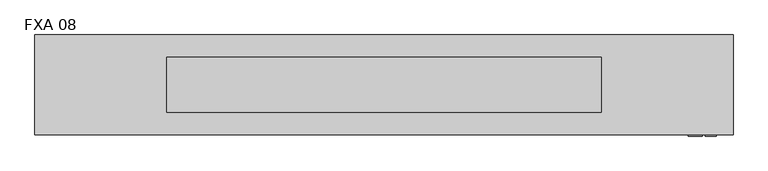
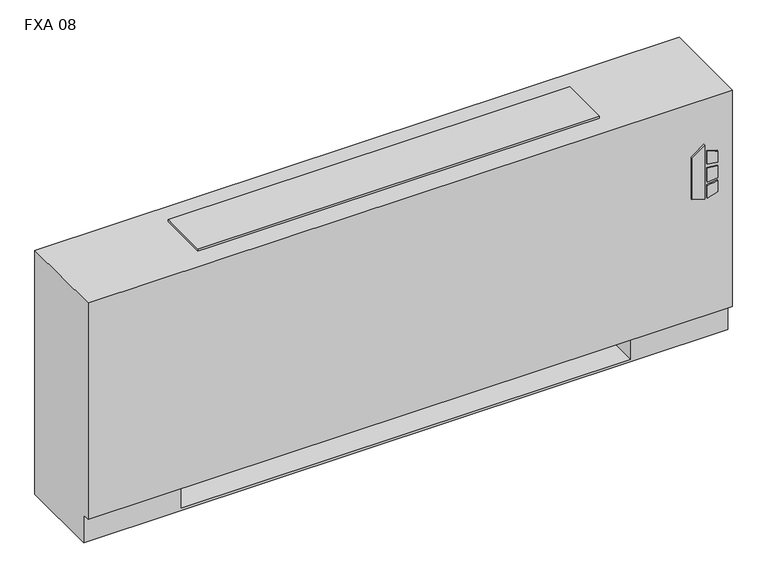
"""IFC4 building model written with IfcOpenShell, lengths in millimetres: proxy geometry, Vertical_Fan_Coil_Unit_-_FXA_-_IEC_-_2-Pipe_TS-FR_RH_2022 : FXA 08."""

from ifc_helpers import new_model, si_unit, point, frame, frame_2d, origin, place, context, project, spatial, polyline, circle_curve, trimmed, segment, composite_curve, outline, extrude, source, transform, mapped, element, save
from ifc_brep_helpers import plane_surface, revolved_surface, advanced_brep


def fxa_08_aa406573(model_context):
    return source(origin(), model_context, "Body", "SolidModel", [
        extrude(outline(polyline([(391.6086829, 849.3868862), (381.6606126, 881.5602728), (523.831537, 881.5602728), (500.8095309, 849.3868862), (391.6086829, 849.3868862)])), frame((0.0, 12.7, 0.0), z_axis=(0.0, 1.0, 0.0), x_axis=(0.0, 0.0, 1.0)), (0.0, 0.0, 1.0), 3.175),
        extrude(outline(polyline([(470.6079683, 888.3186058), (467.4055757, 914.4), (496.6344168, 914.4), (504.6988318, 888.3186058), (470.6079683, 888.3186058)])), frame((0.0, 12.7, 0.0), z_axis=(0.0, 1.0, 0.0), x_axis=(0.0, 0.0, 1.0)), (0.0, 0.0, 1.0), 3.175),
        extrude(outline(polyline([(418.7444414, 914.4), (415.0789404, 888.3186058), (381.6606126, 888.3186058), (390.2948498, 914.4), (418.7444414, 914.4)])), frame((0.0, 12.7, 0.0), z_axis=(0.0, 1.0, 0.0), x_axis=(0.0, 0.0, 1.0)), (0.0, 0.0, 1.0), 3.175),
        extrude(outline(polyline([(458.0596028, 914.4), (460.3414292, 888.3186058), (424.4038806, 888.3186058), (427.1451456, 914.4), (458.0596028, 914.4)])), frame((0.0, 12.7, 0.0), z_axis=(0.0, 1.0, 0.0), x_axis=(0.0, 0.0, 1.0)), (0.0, 0.0, 1.0), 3.175),
        extrude(outline(polyline([(-527.05, 81.534), (-527.05, 223.266), (-406.4, 223.266), (-406.4, 81.534), (-527.05, 81.534)])), frame((0.0, 0.0, 327.025), z_axis=(0.0, 0.0, 1.0), x_axis=(1.0, 0.0, 0.0)), (0.0, 0.0, 1.0), 260.35),
        extrude(outline(composite_curve([segment(trimmed(circle_curve(frame_2d((774.7, 130.175)), 9.525), [point((765.175, 130.175))], [point((784.225, 130.175))], False, "CARTESIAN"), True, "CONTINUOUS"), segment(trimmed(circle_curve(frame_2d((774.7, 130.175)), 9.525), [point((784.225, 130.175))], [point((765.175, 130.175))], False, "CARTESIAN"), True, "CONTINUOUS")], self_intersect=False)), frame((0.0, 0.0, 101.6), z_axis=(0.0, 0.0, 1.0), x_axis=(1.0, 0.0, 0.0)), (0.0, 0.0, 1.0), 25.4),
        extrude(outline(polyline([(869.95, 196.85), (869.95, 63.5), (711.2, 63.5), (711.2, 196.85), (869.95, 196.85)])), frame((0.0, 0.0, 127.0), z_axis=(0.0, 0.0, 1.0), x_axis=(1.0, 0.0, 0.0)), (0.0, 0.0, 1.0), 50.8),
        extrude(outline(composite_curve([segment(trimmed(circle_curve(frame_2d((93.1926, 485.5972)), 7.9375), [point((93.1926, 493.5347))], [point((93.1926, 477.6597))], False, "CARTESIAN"), True, "CONTINUOUS"), segment(trimmed(circle_curve(frame_2d((93.1926, 485.5972)), 7.9375), [point((93.1926, 477.6597))], [point((93.1926, 493.5347))], False, "CARTESIAN"), True, "CONTINUOUS")], self_intersect=False)), frame((711.2, 0.0, 0.0), z_axis=(1.0, 0.0, 0.0), x_axis=(0.0, 1.0, 0.0)), (0.0, 0.0, 1.0), 50.8),
        extrude(outline(composite_curve([segment(trimmed(circle_curve(frame_2d((141.3002, 458.9526)), 7.9375), [point((141.3002, 466.8901))], [point((141.3002, 451.0151))], False, "CARTESIAN"), True, "CONTINUOUS"), segment(trimmed(circle_curve(frame_2d((141.3002, 458.9526)), 7.9375), [point((141.3002, 451.0151))], [point((141.3002, 466.8901))], False, "CARTESIAN"), True, "CONTINUOUS")], self_intersect=False)), frame((711.2, 0.0, 0.0), z_axis=(1.0, 0.0, 0.0), x_axis=(0.0, 1.0, 0.0)), (0.0, 0.0, 1.0), 50.8),
        advanced_brep(
        [(952.5, 244.475, 641.35), (-647.7, 244.475, 641.35), (-647.7, 15.875, 641.35), (952.5, 15.875, 641.35), (-647.7, 244.475, 0.0), (952.5, 244.475, 0.0), (952.5, 34.925, 0.0), (-647.7, 34.925, 0.0), (711.2, 244.475, 73.025), (939.8, 244.475, 73.025), (939.8, 244.475, 628.65), (711.2, 244.475, 628.65), (711.2, 244.475, 414.8650565), (739.775, 244.475, 414.8650565), (739.775, 244.475, 385.2349435), (711.2, 244.475, 385.2349435), (711.2, 244.475, 287.3375), (739.775, 244.475, 287.3375), (739.775, 244.475, 258.7625), (711.2, 244.475, 258.7625), (711.2, 244.475, 141.2875), (739.775, 244.475, 141.2875), (739.775, 244.475, 112.7125), (711.2, 244.475, 112.7125), (-406.4, 244.475, 628.65), (-635.0, 244.475, 628.65), (-635.0, 244.475, 73.025), (-406.4, 244.475, 73.025), (-406.4, 244.475, 112.7125), (-434.975, 244.475, 112.7125), (-434.975, 244.475, 141.2875), (-406.4, 244.475, 141.2875), (-406.4, 244.475, 258.7625), (-434.975, 244.475, 258.7625), (-434.975, 244.475, 287.3375), (-406.4, 244.475, 287.3375), (-406.4, 244.475, 385.2349435), (-434.975, 244.475, 385.2349435), (-434.975, 244.475, 414.8650565), (-406.4, 244.475, 414.8650565), (729.4626, 244.475, 127.0), (718.3374, 244.475, 127.0), (729.4626, 244.475, 400.05), (718.3374, 244.475, 400.05), (729.4626, 244.475, 273.05), (718.3374, 244.475, 273.05), (-413.5374, 244.475, 127.0), (-424.6626, 244.475, 127.0), (-413.5374, 244.475, 273.05), (-424.6626, 244.475, 273.05), (-413.5374, 244.475, 400.05), (-424.6626, 244.475, 400.05), (-647.7, 34.925, 73.025), (-647.7, 15.875, 73.025), (952.5, 15.875, 73.025), (952.5, 34.925, 73.025), (-406.4, 34.925, 73.025), (-406.4, 219.075, 73.025), (711.2, 219.075, 73.025), (711.2, 34.925, 73.025), (711.2, 34.925, 6.35), (-406.4, 34.925, 6.35), (711.2, 41.275, 628.65), (939.8, 41.275, 628.65), (939.8, 41.275, 73.025), (711.2, 41.275, 73.025), (-406.4, 41.275, 628.65), (-406.4, 41.275, 73.025), (-635.0, 41.275, 73.025), (-635.0, 41.275, 628.65), (711.2, 219.075, 73.025), (711.2, 238.125, 112.7125), (711.2, 238.125, 141.2875), (711.2, 238.125, 258.7625), (711.2, 238.125, 287.3375), (711.2, 238.125, 385.2349435), (711.2, 238.125, 414.8650565), (-406.4, 219.075, 73.025), (-406.4, 238.125, 414.8650565), (-406.4, 238.125, 385.2349435), (-406.4, 238.125, 287.3375), (-406.4, 238.125, 258.7625), (-406.4, 238.125, 141.2875), (-406.4, 238.125, 112.7125), (-406.4, 219.075, 6.35), (711.2, 219.075, 6.35), (739.775, 238.125, 112.7125), (739.775, 238.125, 141.2875), (718.3374, 238.125, 127.0), (729.4626, 238.125, 127.0), (739.775, 238.125, 258.7625), (739.775, 238.125, 287.3375), (718.3374, 238.125, 273.05), (729.4626, 238.125, 273.05), (739.775, 238.125, 385.2349435), (739.775, 238.125, 414.8650565), (718.3374, 238.125, 400.05), (729.4626, 238.125, 400.05), (-434.975, 238.125, 141.2875), (-434.975, 238.125, 112.7125), (-424.6626, 238.125, 127.0), (-413.5374, 238.125, 127.0), (-434.975, 238.125, 287.3375), (-434.975, 238.125, 258.7625), (-424.6626, 238.125, 273.05), (-413.5374, 238.125, 273.05), (-434.975, 238.125, 414.8650565), (-434.975, 238.125, 385.2349435), (-424.6626, 238.125, 400.05), (-413.5374, 238.125, 400.05)],
        [
            (0, 1),
            (1, 2),
            (2, 3),
            (3, 0),
            (4, 5),
            (5, 6),
            (6, 7),
            (7, 4),
            (0, 5),
            (4, 1),
            (8, 9),
            (9, 10),
            (10, 11),
            (11, 12),
            (12, 13),
            (13, 14),
            (14, 15),
            (15, 16),
            (16, 17),
            (17, 18),
            (18, 19),
            (19, 20),
            (20, 21),
            (21, 22),
            (22, 23),
            (23, 8),
            (24, 25),
            (25, 26),
            (26, 27),
            (27, 28),
            (28, 29),
            (29, 30),
            (30, 31),
            (31, 32),
            (32, 33),
            (33, 34),
            (34, 35),
            (35, 36),
            (36, 37),
            (37, 38),
            (38, 39),
            (39, 24),
            (40, 41, circle_curve(frame((723.9, 244.475, 127.0), z_axis=(0.0, -1.0, 0.0), x_axis=(-1.0, 0.0, 0.0)), 5.5626)),
            (41, 40, circle_curve(frame((723.9, 244.475, 127.0), z_axis=(0.0, -1.0, 0.0), x_axis=(-1.0, 0.0, 0.0)), 5.5626)),
            (42, 43, circle_curve(frame((723.9, 244.475, 400.05), z_axis=(0.0, -1.0, 0.0), x_axis=(-1.0, 0.0, 0.0)), 5.5626)),
            (43, 42, circle_curve(frame((723.9, 244.475, 400.05), z_axis=(0.0, -1.0, 0.0), x_axis=(-1.0, 0.0, 0.0)), 5.5626)),
            (44, 45, circle_curve(frame((723.9, 244.475, 273.05), z_axis=(0.0, -1.0, 0.0), x_axis=(-1.0, 0.0, 0.0)), 5.5626)),
            (45, 44, circle_curve(frame((723.9, 244.475, 273.05), z_axis=(0.0, -1.0, 0.0), x_axis=(-1.0, 0.0, 0.0)), 5.5626)),
            (46, 47, circle_curve(frame((-419.1, 244.475, 127.0), z_axis=(0.0, -1.0, 0.0), x_axis=(-1.0, 0.0, 0.0)), 5.5626)),
            (47, 46, circle_curve(frame((-419.1, 244.475, 127.0), z_axis=(0.0, -1.0, 0.0), x_axis=(-1.0, 0.0, 0.0)), 5.5626)),
            (48, 49, circle_curve(frame((-419.1, 244.475, 273.05), z_axis=(0.0, -1.0, 0.0), x_axis=(-1.0, 0.0, 0.0)), 5.5626)),
            (49, 48, circle_curve(frame((-419.1, 244.475, 273.05), z_axis=(0.0, -1.0, 0.0), x_axis=(-1.0, 0.0, 0.0)), 5.5626)),
            (50, 51, circle_curve(frame((-419.1, 244.475, 400.05), z_axis=(0.0, -1.0, 0.0), x_axis=(-1.0, 0.0, 0.0)), 5.5626)),
            (51, 50, circle_curve(frame((-419.1, 244.475, 400.05), z_axis=(0.0, -1.0, 0.0), x_axis=(-1.0, 0.0, 0.0)), 5.5626)),
            (7, 52),
            (52, 53),
            (53, 2),
            (53, 54),
            (54, 3),
            (54, 55),
            (55, 6),
            (52, 56),
            (56, 57),
            (57, 58),
            (58, 59),
            (59, 55),
            (59, 60),
            (60, 61),
            (61, 56),
            (62, 63),
            (63, 64),
            (64, 65),
            (65, 62),
            (66, 67),
            (67, 68),
            (68, 69),
            (69, 66),
            (65, 70),
            (70, 8),
            (23, 71),
            (71, 72),
            (72, 20),
            (19, 73),
            (73, 74),
            (74, 16),
            (15, 75),
            (75, 76),
            (76, 12),
            (11, 62),
            (64, 9),
            (63, 10),
            (69, 25),
            (24, 66),
            (68, 26),
            (67, 77),
            (77, 27),
            (39, 78),
            (78, 79),
            (79, 36),
            (35, 80),
            (80, 81),
            (81, 32),
            (31, 82),
            (82, 83),
            (83, 28),
            (57, 84),
            (84, 85),
            (85, 58),
            (85, 60),
            (84, 61),
            (71, 86),
            (86, 87),
            (87, 72),
            (88, 89, circle_curve(frame((723.9, 238.125, 127.0), z_axis=(0.0, 1.0, 0.0), x_axis=(-1.0, 0.0, 0.0)), 5.5626)),
            (89, 88, circle_curve(frame((723.9, 238.125, 127.0), z_axis=(0.0, 1.0, 0.0), x_axis=(-1.0, 0.0, 0.0)), 5.5626)),
            (73, 90),
            (90, 91),
            (91, 74),
            (92, 93, circle_curve(frame((723.9, 238.125, 273.05), z_axis=(0.0, 1.0, 0.0), x_axis=(-1.0, 0.0, 0.0)), 5.5626)),
            (93, 92, circle_curve(frame((723.9, 238.125, 273.05), z_axis=(0.0, 1.0, 0.0), x_axis=(-1.0, 0.0, 0.0)), 5.5626)),
            (75, 94),
            (94, 95),
            (95, 76),
            (96, 97, circle_curve(frame((723.9, 238.125, 400.05), z_axis=(0.0, 1.0, 0.0), x_axis=(-1.0, 0.0, 0.0)), 5.5626)),
            (97, 96, circle_curve(frame((723.9, 238.125, 400.05), z_axis=(0.0, 1.0, 0.0), x_axis=(-1.0, 0.0, 0.0)), 5.5626)),
            (98, 99),
            (99, 83),
            (82, 98),
            (100, 101, circle_curve(frame((-419.1, 238.125, 127.0), z_axis=(0.0, 1.0, 0.0), x_axis=(-1.0, 0.0, 0.0)), 5.5626)),
            (101, 100, circle_curve(frame((-419.1, 238.125, 127.0), z_axis=(0.0, 1.0, 0.0), x_axis=(-1.0, 0.0, 0.0)), 5.5626)),
            (102, 103),
            (103, 81),
            (80, 102),
            (104, 105, circle_curve(frame((-419.1, 238.125, 273.05), z_axis=(0.0, 1.0, 0.0), x_axis=(-1.0, 0.0, 0.0)), 5.5626)),
            (105, 104, circle_curve(frame((-419.1, 238.125, 273.05), z_axis=(0.0, 1.0, 0.0), x_axis=(-1.0, 0.0, 0.0)), 5.5626)),
            (106, 107),
            (107, 79),
            (78, 106),
            (108, 109, circle_curve(frame((-419.1, 238.125, 400.05), z_axis=(0.0, 1.0, 0.0), x_axis=(-1.0, 0.0, 0.0)), 5.5626)),
            (109, 108, circle_curve(frame((-419.1, 238.125, 400.05), z_axis=(0.0, 1.0, 0.0), x_axis=(-1.0, 0.0, 0.0)), 5.5626)),
            (87, 21),
            (86, 22),
            (91, 17),
            (90, 18),
            (95, 13),
            (94, 14),
            (30, 98),
            (99, 29),
            (34, 102),
            (103, 33),
            (38, 106),
            (107, 37),
            (88, 41),
            (40, 89),
            (96, 43),
            (42, 97),
            (92, 45),
            (44, 93),
            (100, 47),
            (46, 101),
            (104, 49),
            (48, 105),
            (108, 51),
            (50, 109),
        ],
        [
            plane_surface(frame((-647.7, 244.475, 641.35), z_axis=(0.0, 0.0, 1.0), x_axis=(-1.0, 0.0, 0.0))),
            plane_surface(frame((-647.7, 244.475, 0.0), z_axis=(0.0, 0.0, -1.0), x_axis=(1.0, 0.0, 0.0))),
            plane_surface(frame((952.5, 244.475, 641.35), z_axis=(0.0, 1.0, 0.0), x_axis=(0.0, 0.0, -1.0))),
            plane_surface(frame((-647.7, 244.475, 641.35), z_axis=(-1.0, 0.0, 0.0), x_axis=(0.0, 0.0, -1.0))),
            plane_surface(frame((-647.7, 15.875, 641.35), z_axis=(0.0, -1.0, 0.0), x_axis=(0.0, 0.0, -1.0))),
            plane_surface(frame((952.5, 15.875, 641.35), z_axis=(1.0, 0.0, 0.0), x_axis=(0.0, 0.0, -1.0))),
            plane_surface(frame((-647.7, 15.875, 73.025), z_axis=(0.0, 0.0, -1.0), x_axis=(1.0, 0.0, 0.0))),
            plane_surface(frame((-647.7, 34.925, 73.025), z_axis=(0.0, -1.0, 0.0), x_axis=(1.0, 0.0, 0.0))),
            plane_surface(frame((711.2, 41.275, 628.65), z_axis=(0.0, 1.0, 0.0), x_axis=(0.0, 0.0, -1.0))),
            plane_surface(frame((711.2, 41.275, 628.65), z_axis=(1.0, 0.0, 0.0), x_axis=(0.0, 1.0, 0.0))),
            plane_surface(frame((711.2, 41.275, 73.025), z_axis=(0.0, 0.0, 1.0), x_axis=(0.0, 1.0, 0.0))),
            plane_surface(frame((939.8, 41.275, 73.025), z_axis=(-1.0, 0.0, 0.0), x_axis=(0.0, 1.0, 0.0))),
            plane_surface(frame((939.8, 41.275, 628.65), z_axis=(0.0, 0.0, -1.0), x_axis=(0.0, 1.0, 0.0))),
            plane_surface(frame((-406.4, 41.275, 628.65), z_axis=(0.0, 0.0, -1.0), x_axis=(0.0, 1.0, 0.0))),
            plane_surface(frame((-635.0, 41.275, 628.65), z_axis=(1.0, 0.0, 0.0), x_axis=(0.0, 1.0, 0.0))),
            plane_surface(frame((-635.0, 41.275, 73.025), z_axis=(0.0, 0.0, 1.0), x_axis=(0.0, 1.0, 0.0))),
            plane_surface(frame((-406.4, 41.275, 73.025), z_axis=(-1.0, 0.0, 0.0), x_axis=(0.0, 1.0, 0.0))),
            plane_surface(frame((711.2, 219.075, 73.025), z_axis=(0.0, -1.0, 0.0), x_axis=(0.0, 0.0, -1.0))),
            plane_surface(frame((711.2, 219.075, 73.025), z_axis=(-1.0, 0.0, 0.0), x_axis=(0.0, -1.0, 0.0))),
            plane_surface(frame((711.2, 219.075, 6.35), z_axis=(0.0, 0.0, 1.0), x_axis=(0.0, -1.0, 0.0))),
            plane_surface(frame((-406.4, 219.075, 6.35), z_axis=(1.0, 0.0, 0.0), x_axis=(0.0, -1.0, 0.0))),
            plane_surface(frame((739.775, 238.125, 141.2875), z_axis=(0.0, -1.0, 0.0), x_axis=(-1.0, 0.0, 0.0))),
            plane_surface(frame((711.2, 244.475, 141.2875), z_axis=(0.0, 0.0, 1.0), x_axis=(0.0, -1.0, 0.0))),
            plane_surface(frame((739.775, 244.475, 141.2875), z_axis=(1.0, 0.0, 0.0), x_axis=(0.0, -1.0, 0.0))),
            plane_surface(frame((739.775, 244.475, 112.7125), z_axis=(0.0, 0.0, -1.0), x_axis=(0.0, -1.0, 0.0))),
            plane_surface(frame((711.2, 244.475, 287.3375), z_axis=(0.0, 0.0, 1.0), x_axis=(0.0, -1.0, 0.0))),
            plane_surface(frame((739.775, 244.475, 287.3375), z_axis=(1.0, 0.0, 0.0), x_axis=(0.0, -1.0, 0.0))),
            plane_surface(frame((739.775, 244.475, 258.7625), z_axis=(0.0, 0.0, -1.0), x_axis=(0.0, -1.0, 0.0))),
            plane_surface(frame((711.2, 244.475, 414.8650565), z_axis=(0.0, 0.0, 1.0), x_axis=(0.0, -1.0, 0.0))),
            plane_surface(frame((739.775, 244.475, 414.8650565), z_axis=(1.0, 0.0, 0.0), x_axis=(0.0, -1.0, 0.0))),
            plane_surface(frame((739.775, 244.475, 385.2349435), z_axis=(0.0, 0.0, -1.0), x_axis=(0.0, -1.0, 0.0))),
            plane_surface(frame((-434.975, 244.475, 141.2875), z_axis=(0.0, 0.0, 1.0), x_axis=(0.0, -1.0, 0.0))),
            plane_surface(frame((-406.4, 244.475, 112.7125), z_axis=(0.0, 0.0, -1.0), x_axis=(0.0, -1.0, 0.0))),
            plane_surface(frame((-434.975, 244.475, 112.7125), z_axis=(-1.0, 0.0, 0.0), x_axis=(0.0, -1.0, 0.0))),
            plane_surface(frame((-434.975, 244.475, 287.3375), z_axis=(0.0, 0.0, 1.0), x_axis=(0.0, -1.0, 0.0))),
            plane_surface(frame((-406.4, 244.475, 258.7625), z_axis=(0.0, 0.0, -1.0), x_axis=(0.0, -1.0, 0.0))),
            plane_surface(frame((-434.975, 244.475, 258.7625), z_axis=(-1.0, 0.0, 0.0), x_axis=(0.0, -1.0, 0.0))),
            plane_surface(frame((-434.975, 244.475, 414.8650565), z_axis=(0.0, 0.0, 1.0), x_axis=(0.0, -1.0, 0.0))),
            plane_surface(frame((-406.4, 244.475, 385.2349435), z_axis=(0.0, 0.0, -1.0), x_axis=(0.0, -1.0, 0.0))),
            plane_surface(frame((-434.975, 244.475, 385.2349435), z_axis=(-1.0, 0.0, 0.0), x_axis=(0.0, -1.0, 0.0))),
            revolved_surface(polyline([(718.3374, 238.125, 127.0), (718.3374, 244.475, 127.0)]), (723.9, 244.475, 127.0), (0.0, -1.0, 0.0)),
            revolved_surface(polyline([(718.3374, 238.125, 400.05), (718.3374, 244.475, 400.05)]), (723.9, 244.475, 400.05), (0.0, -1.0, 0.0)),
            revolved_surface(polyline([(718.3374, 238.125, 273.05), (718.3374, 244.475, 273.05)]), (723.9, 244.475, 273.05), (0.0, -1.0, 0.0)),
            revolved_surface(polyline([(-424.6626, 238.125, 127.0), (-424.6626, 244.475, 127.0)]), (-419.1, 244.475, 127.0), (0.0, -1.0, 0.0)),
            revolved_surface(polyline([(-424.6626, 238.125, 273.05), (-424.6626, 244.475, 273.05)]), (-419.1, 244.475, 273.05), (0.0, -1.0, 0.0)),
            revolved_surface(polyline([(-424.6626, 238.125, 400.05), (-424.6626, 244.475, 400.05)]), (-419.1, 244.475, 400.05), (0.0, -1.0, 0.0)),
        ],
        [
            (0, [[1, 2, 3, 4]]),
            (1, [[5, 6, 7, 8]]),
            (2, [[-1, 9, -5, 10], [11, 12, 13, 14, 15, 16, 17, 18, 19, 20, 21, 22, 23, 24, 25, 26], [27, 28, 29, 30, 31, 32, 33, 34, 35, 36, 37, 38, 39, 40, 41, 42], [43, 44], [45, 46], [47, 48], [49, 50], [51, 52], [53, 54]]),
            (3, [[-2, -10, -8, 55, 56, 57]]),
            (4, [[-3, -57, 58, 59]]),
            (5, [[-4, -59, 60, 61, -6, -9]]),
            (6, [[-56, 62, 63, 64, 65, 66, -60, -58]]),
            (7, [[-7, -61, -66, 67, 68, 69, -62, -55]]),
            (8, [[70, 71, 72, 73]]),
            (8, [[74, 75, 76, 77]]),
            (9, [[-73, 78, 79, -26, 80, 81, 82, -22, 83, 84, 85, -18, 86, 87, 88, -14, 89]]),
            (10, [[-72, 90, -11, -79, -78]]),
            (11, [[-71, 91, -12, -90]]),
            (12, [[-70, -89, -13, -91]]),
            (13, [[-77, 92, -27, 93]]),
            (14, [[-76, 94, -28, -92]]),
            (15, [[-75, 95, 96, -29, -94]]),
            (16, [[-74, -93, -42, 97, 98, 99, -38, 100, 101, 102, -34, 103, 104, 105, -30, -96, -95]]),
            (17, [[-64, 106, 107, 108]]),
            (18, [[-108, 109, -67, -65]]),
            (19, [[-107, 110, -68, -109]]),
            (20, [[-106, -63, -69, -110]]),
            (21, [[111, 112, 113, -81], [114, 115]]),
            (21, [[116, 117, 118, -84], [119, 120]]),
            (21, [[121, 122, 123, -87], [124, 125]]),
            (21, [[126, 127, -104, 128], [129, 130]]),
            (21, [[131, 132, -101, 133], [134, 135]]),
            (21, [[136, 137, -98, 138], [139, 140]]),
            (22, [[-113, 141, -23, -82]]),
            (23, [[-112, 142, -24, -141]]),
            (24, [[-111, -80, -25, -142]]),
            (25, [[-118, 143, -19, -85]]),
            (26, [[-117, 144, -20, -143]]),
            (27, [[-116, -83, -21, -144]]),
            (28, [[-123, 145, -15, -88]]),
            (29, [[-122, 146, -16, -145]]),
            (30, [[-121, -86, -17, -146]]),
            (31, [[-128, -103, -33, 147]]),
            (32, [[-127, 148, -31, -105]]),
            (33, [[-126, -147, -32, -148]]),
            (34, [[-133, -100, -37, 149]]),
            (35, [[-132, 150, -35, -102]]),
            (36, [[-131, -149, -36, -150]]),
            (37, [[-138, -97, -41, 151]]),
            (38, [[-137, 152, -39, -99]]),
            (39, [[-136, -151, -40, -152]]),
            (40, [[153, -43, 154, -114]]),
            (40, [[-153, -115, -154, -44]]),
            (41, [[155, -45, 156, -124]]),
            (41, [[-155, -125, -156, -46]]),
            (42, [[157, -47, 158, -119]]),
            (42, [[-157, -120, -158, -48]]),
            (43, [[159, -49, 160, -129]]),
            (43, [[-159, -130, -160, -50]]),
            (44, [[161, -51, 162, -134]]),
            (44, [[-161, -135, -162, -52]]),
            (45, [[163, -53, 164, -139]]),
            (45, [[-163, -140, -164, -54]]),
        ],
    ),
        extrude(outline(polyline([(650.875, 193.675), (650.875, 66.675), (-346.075, 66.675), (-346.075, 193.675), (650.875, 193.675)])), frame((0.0, 0.0, 641.35), z_axis=(0.0, 0.0, 1.0), x_axis=(1.0, 0.0, 0.0)), (0.0, 0.0, 1.0), 6.35),
    ])


if __name__ == "__main__":
    model = new_model("IFC4")
    model_context = context("Model", 3, world=origin())
    ifc_project = project(units=[si_unit("LENGTHUNIT", "METRE", prefix="MILLI")], contexts=[model_context])
    site = spatial("IfcSite", under=ifc_project)
    building = spatial("IfcBuilding", under=site)
    placement = place(None, origin())
    fxa_08_shape = fxa_08_aa406573(model_context)
    element("IfcBuildingElementProxy", 1, Name="Vertical_Fan_Coil_Unit_-_FXA_-_IEC_-_2-Pipe_TS-FR_RH_2022 : FXA 08", ObjectType="Vertical_Fan_Coil_Unit_-_FXA_-_IEC_-_2-Pipe_TS-FR_RH_2022 : FXA 08", at=placement, inside=building, context=model_context, shape_type="MappedRepresentation", body=[
        mapped(fxa_08_shape, transform((0.0, 0.0, 0.0), x_axis=(1.0, 0.0, 0.0), y_axis=(0.0, 1.0, 0.0), z_axis=(0.0, 0.0, 1.0))),
    ])
    save(model, "model.ifc")
